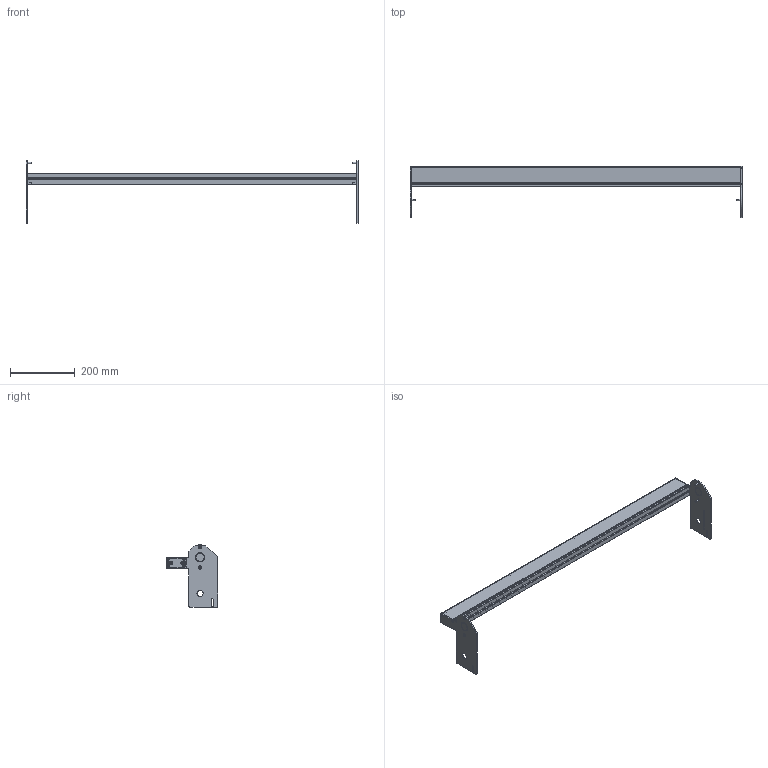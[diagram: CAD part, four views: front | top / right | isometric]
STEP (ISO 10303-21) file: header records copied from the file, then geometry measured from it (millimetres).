
FILE_DESCRIPTION((''),'2;1');
FILE_NAME('350712-40_ASM','2023-03-22T',('jenni.wallner'),(''),'PRO/ENGINEER BY PARAMETRIC TECHNOLOGY CORPORATION, 2012420','PRO/ENGINEER BY PARAMETRIC TECHNOLOGY CORPORATION, 2012420','');
FILE_SCHEMA(('CONFIG_CONTROL_DESIGN'));
Length unit declared in the file: inch
Products named in the file (6): 350669-40; 350667; 350668; 930412M; 930516M; 350712-40_ASM
Assembly tree (11 placements, depth 2):
  350712-40_ASM
    350669-40
    350667
    350668
    930412M  x4
    930516M  x4
Bounding box: 1028.34 x 158.09 x 193.27 mm (x, y, z)
Volume: 918417.1 mm3; surface area: 596399.5 mm2
Topology: 11 solids, 11 shells, 334 faces, 872 edges, 568 vertices
Faces by surface type: plane 150, cylinder 136, cone 48
Entity records: 7773 total; most frequent: DIRECTION 1398, CARTESIAN_POINT 1317, ORIENTED_EDGE 1288, EDGE_CURVE 644, AXIS2_PLACEMENT_3D 505, VERTEX_POINT 424, VECTOR 388, LINE 388
